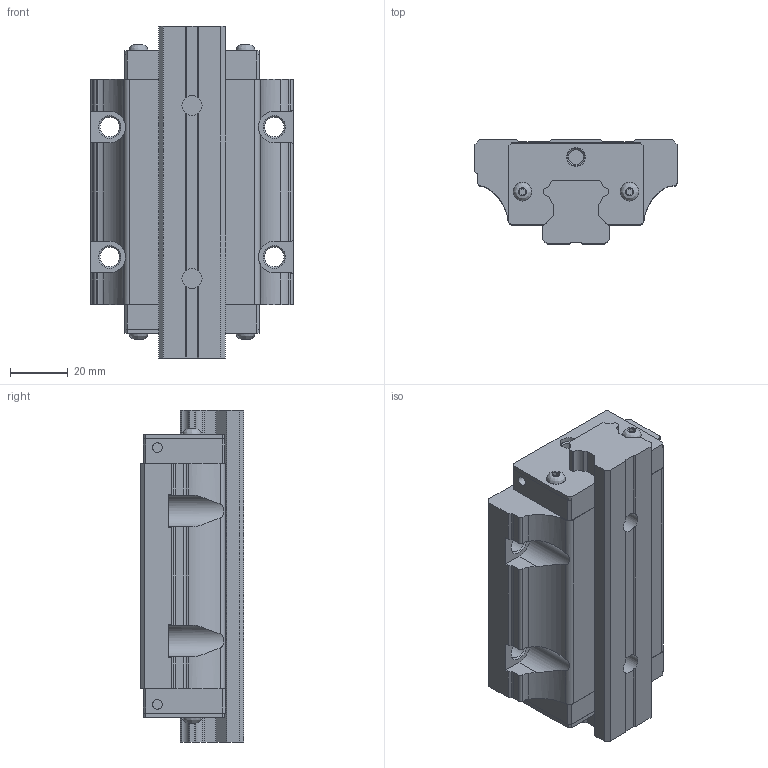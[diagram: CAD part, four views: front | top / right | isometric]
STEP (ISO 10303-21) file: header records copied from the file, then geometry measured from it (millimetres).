
FILE_DESCRIPTION( ( 'STEP AP214' ), '1' );
FILE_NAME( 'C:/Users/mimi4/OneDrive/Desktop/BSQ賅筐葭/MCH/MCH25LF.stp', '2019-11-26T06:03:23', ( ' ' ), ( ' ' ), 'XStep 1.0', 'VISICAD', ' ' );
FILE_SCHEMA( ( 'automotive_design' ) );
Length unit declared in the file: metre
Products named in the file (2): 1; 2
Bounding box: 70 x 36 x 115 mm (x, y, z)
Volume: 178841 mm3; surface area: 38966.7 mm2
Topology: 2 solids, 6 shells, 272 faces, 720 edges, 480 vertices
Faces by surface type: plane 195, cylinder 63, cone 10, bspline 4
Full cylindrical faces by diameter (mm): 3.25 x4, 3.3 x4, 5.188 x2, 6.5 x10, 6.8 x4, 7 x2, 11 x2
Entity records: 10460 total; most frequent: CARTESIAN_POINT 1680, DIRECTION 1344, ORIENTED_EDGE 1308, EDGE_CURVE 654, LINE 480, VECTOR 480, VERTEX_POINT 456, AXIS2_PLACEMENT_3D 432
